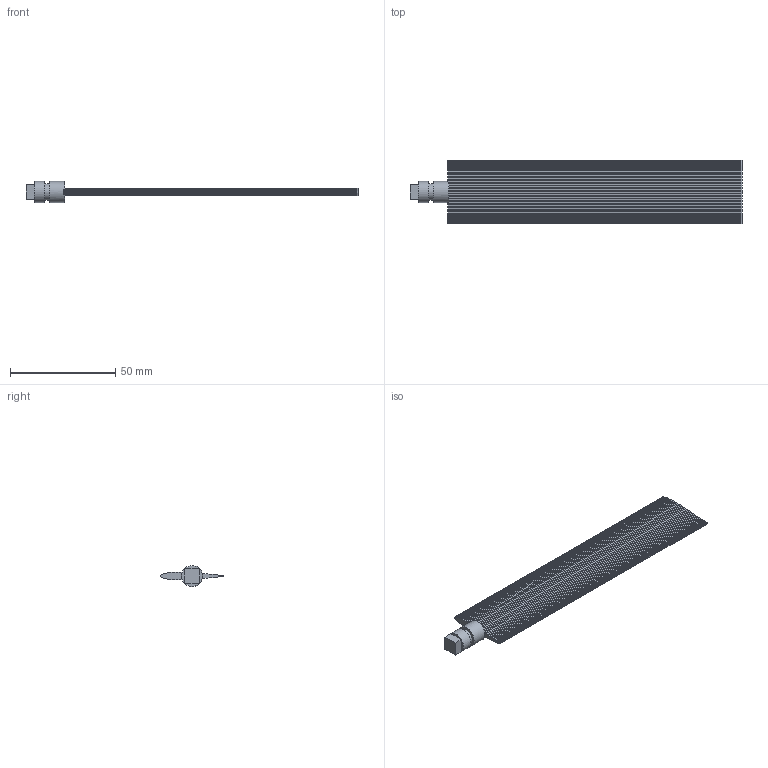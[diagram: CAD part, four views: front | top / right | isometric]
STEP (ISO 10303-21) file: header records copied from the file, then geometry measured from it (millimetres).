
FILE_DESCRIPTION(('FreeCAD Model'),'2;1');
FILE_NAME('Open CASCADE Shape Model','2026-10-30T15:48:59',('FreeCAD'),( 'FreeCAD'),'Open CASCADE STEP processor 7.8','FreeCAD','Unknown');
FILE_SCHEMA(('AUTOMOTIVE_DESIGN { 1 0 10303 214 1 1 1 1 }'));
Length unit declared in the file: millimetre
Products named in the file (1): Open CASCADE STEP translator 7.8 1
Bounding box: 157.5 x 30 x 10 mm (x, y, z)
Volume: 11728.8 mm3; surface area: 9460.9 mm2
Topology: 1 solids, 1 shells, 137 faces, 396 edges, 264 vertices
Faces by surface type: plane 134, cylinder 3
Full cylindrical faces by diameter (mm): 7.6 x1, 10 x2
Entity records: 4430 total; most frequent: CARTESIAN_POINT 798, ORIENTED_EDGE 792, DIRECTION 682, EDGE_CURVE 396, LINE 386, VECTOR 386, VERTEX_POINT 264, AXIS2_PLACEMENT_3D 148
